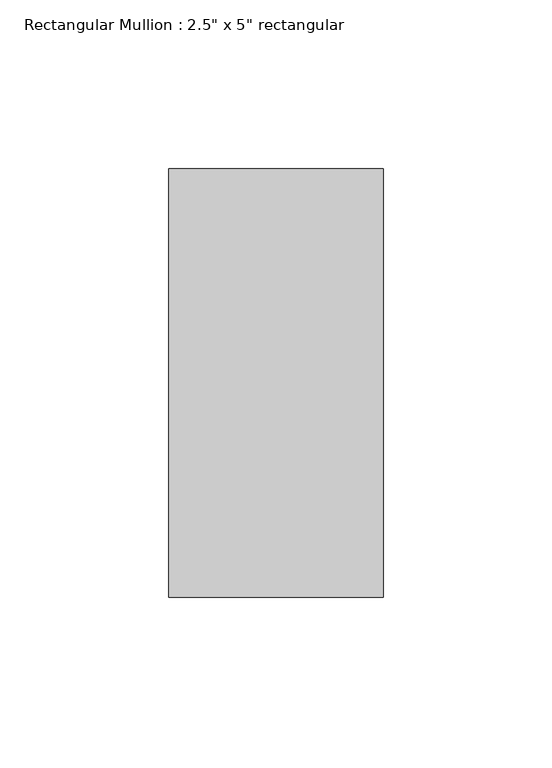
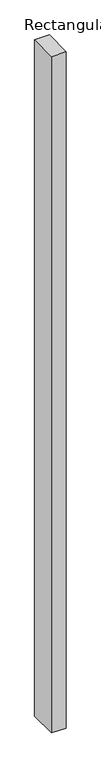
"""IFC4 building model written with IfcOpenShell, lengths in millimetres: member geometry."""

from ifc_helpers import new_model, si_unit, frame, origin, place, context, project, spatial, polyline, outline, extrude, source, transform, mapped, element, save


def member_a7c730c3(model_context):
    return source(origin(), model_context, "Body", "SweptSolid", [
        extrude(outline(polyline([(0.0, 0.0), (-0.6941708, -63.5), (-3108.5706686, -63.5), (-3109.4179222, 0.0), (0.0, 0.0)])), frame((0.0, -63.5, 0.0), z_axis=(0.0, 1.0, 0.0), x_axis=(0.0, 0.0, 1.0)), (0.0, 0.0, 1.0), 127.0),
    ])


if __name__ == "__main__":
    model = new_model("IFC4")
    model_context = context("Model", 3, world=origin())
    ifc_project = project(units=[si_unit("LENGTHUNIT", "METRE", prefix="MILLI")], contexts=[model_context])
    site = spatial("IfcSite", under=ifc_project)
    building = spatial("IfcBuilding", under=site)
    placement = place(None, origin())
    member_shape = member_a7c730c3(model_context)
    element("IfcMember", 1, ObjectType="Rectangular Mullion : 2.5\" x 5\" rectangular", at=placement, inside=building, context=model_context, shape_type="MappedRepresentation", body=[
        mapped(member_shape, transform((0.0, 0.0, 0.0), x_axis=(1.0, 0.0, 0.0), y_axis=(0.0, 1.0, 0.0), z_axis=(0.0, 0.0, 1.0))),
    ])
    save(model, "model.ifc")
